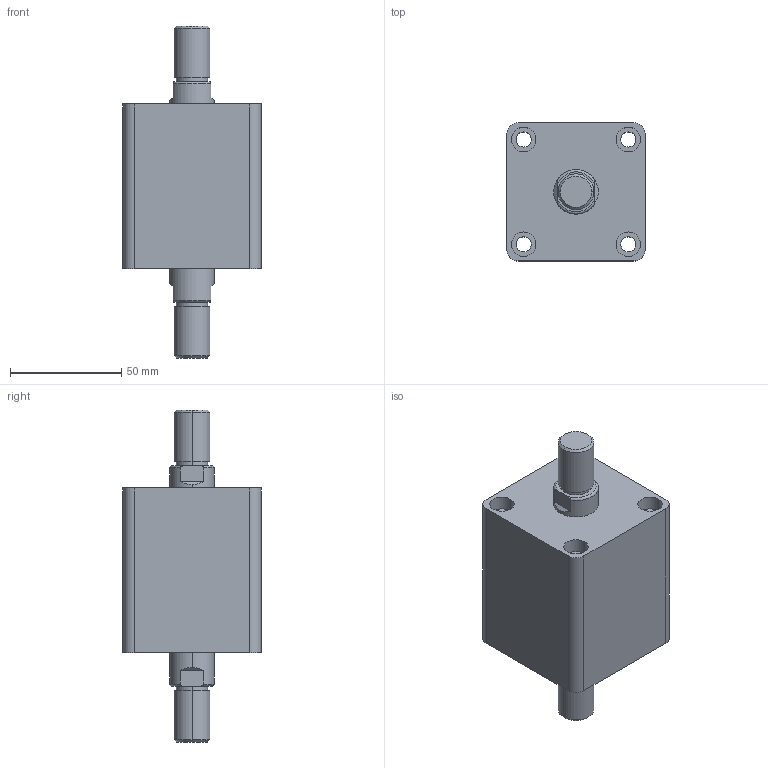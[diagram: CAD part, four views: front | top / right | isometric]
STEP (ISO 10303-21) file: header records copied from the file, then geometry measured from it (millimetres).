
FILE_DESCRIPTION (( 'STEP AP203' ), '1' );
FILE_NAME ('HTB-SW32-5W.STEP', '2019-10-07T08:49:42', ( '微软用户' ), ( '微软中国' ), 'SwSTEP 2.0', 'SolidWorks 2012', '' );
FILE_SCHEMA (( 'CONFIG_CONTROL_DESIGN' ));
Length unit declared in the file: millimetre
Products named in the file (3): HTB-SW32-5W; HTB-SW32-5W活塞杆; HTB-SW32-5掛极
Assembly tree (2 placements, depth 2):
  HTB-SW32-5W
    HTB-SW32-5掛极
    HTB-SW32-5W活塞杆
Bounding box: 62 x 62 x 149 mm (x, y, z)
Volume: 281740.7 mm3; surface area: 49639.8 mm2
Topology: 2 solids, 2 shells, 108 faces, 240 edges, 156 vertices
Faces by surface type: cylinder 52, plane 36, torus 12, cone 8
Entity records: 3449 total; most frequent: CARTESIAN_POINT 629, DIRECTION 586, ORIENTED_EDGE 480, AXIS2_PLACEMENT_3D 249, EDGE_CURVE 240, VERTEX_POINT 156, EDGE_LOOP 138, CIRCLE 136
